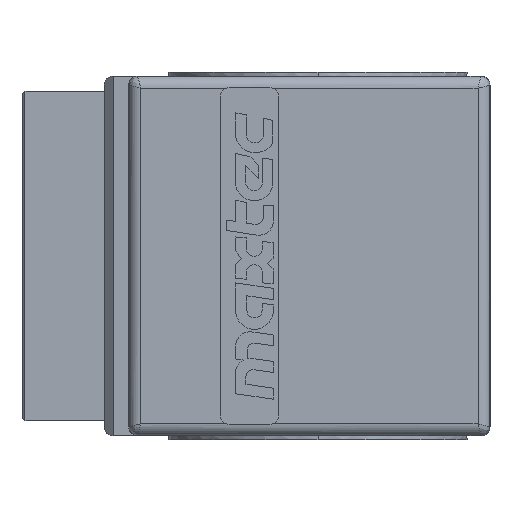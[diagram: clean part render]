
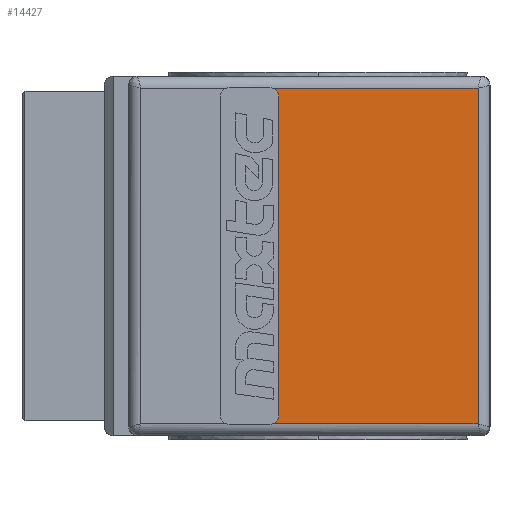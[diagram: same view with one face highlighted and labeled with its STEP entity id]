
A CAD part, left-side view. The second image highlights one B-rep face of the part: STEP entity #14427.
In plain terms, the highlighted planar face has unit normal (-1, 0, 0) as drawn and (0, 1, 0) by its records, which use the part's own axes.
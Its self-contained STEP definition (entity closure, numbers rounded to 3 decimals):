
#12606=DIRECTION('',(0.,0.,-1.));
#12607=VECTOR('',#12606,34.151);
#12608=CARTESIAN_POINT('',(28.,6.,28.));
#12609=LINE('',#12608,#12607);
#12610=DIRECTION('',(1.,0.,0.));
#12611=VECTOR('',#12610,56.);
#12612=CARTESIAN_POINT('',(-28.,6.,28.));
#12613=LINE('',#12612,#12611);
#12614=DIRECTION('',(0.,0.,-1.));
#12615=VECTOR('',#12614,34.151);
#12616=CARTESIAN_POINT('',(-28.,6.,28.));
#12617=LINE('',#12616,#12615);
#12618=DIRECTION('',(1.,0.,0.));
#12619=VECTOR('',#12618,53.25);
#12620=CARTESIAN_POINT('',(-26.625,6.,-5.25));
#12621=LINE('',#12620,#12619);
#12644=CARTESIAN_POINT('',(26.625,6.,-6.75));
#12645=DIRECTION('',(0.,-1.,0.));
#12646=DIRECTION('',(0.917,0.,0.4));
#12647=AXIS2_PLACEMENT_3D('',#12644,#12645,#12646);
#12657=CARTESIAN_POINT('',(-28.,6.,-6.151));
#12663=CARTESIAN_POINT('',(-26.625,6.,-6.75));
#12664=DIRECTION('',(0.,-1.,0.));
#12665=DIRECTION('',(0.,0.,1.));
#12666=AXIS2_PLACEMENT_3D('',#12663,#12664,#12665);
#13896=CARTESIAN_POINT('',(-26.625,6.,-5.25));
#13898=VERTEX_POINT('',#13896);
#13900=CARTESIAN_POINT('',(26.625,6.,-5.25));
#13902=VERTEX_POINT('',#13900);
#14256=CARTESIAN_POINT('',(28.,6.,28.));
#14257=CARTESIAN_POINT('',(28.,6.,-6.151));
#14258=VERTEX_POINT('',#14256);
#14259=VERTEX_POINT('',#14257);
#14265=CARTESIAN_POINT('',(-28.,6.,28.));
#14266=VERTEX_POINT('',#14265);
#14267=VERTEX_POINT('',#12657);
#14408=CARTESIAN_POINT('',(0.,6.,0.));
#14409=DIRECTION('',(0.,1.,0.));
#14410=DIRECTION('',(1.,0.,0.));
#14411=AXIS2_PLACEMENT_3D('',#14408,#14409,#14410);
#14412=PLANE('',#14411);
#14414=ORIENTED_EDGE('',*,*,#14413,.F.);
#14416=ORIENTED_EDGE('',*,*,#14415,.F.);
#14418=ORIENTED_EDGE('',*,*,#14417,.T.);
#14420=ORIENTED_EDGE('',*,*,#14419,.F.);
#14422=ORIENTED_EDGE('',*,*,#14421,.T.);
#14424=ORIENTED_EDGE('',*,*,#14423,.F.);
#14425=EDGE_LOOP('',(#14414,#14416,#14418,#14420,#14422,#14424));
#14426=FACE_OUTER_BOUND('',#14425,.F.);
#12648=CIRCLE('',#12647,1.5);
#12667=CIRCLE('',#12666,1.5);
#14413=EDGE_CURVE('',#14258,#14259,#12609,.T.);
#14415=EDGE_CURVE('',#14266,#14258,#12613,.T.);
#14417=EDGE_CURVE('',#14266,#14267,#12617,.T.);
#14419=EDGE_CURVE('',#13898,#14267,#12667,.T.);
#14421=EDGE_CURVE('',#13898,#13902,#12621,.T.);
#14423=EDGE_CURVE('',#14259,#13902,#12648,.T.);
#14427=ADVANCED_FACE('',(#14426),#14412,.T.);
